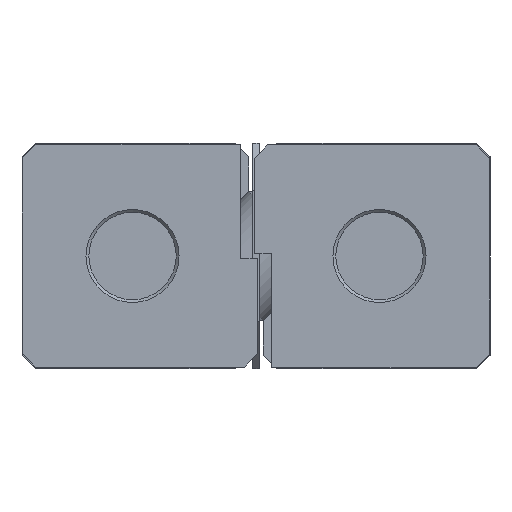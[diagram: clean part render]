
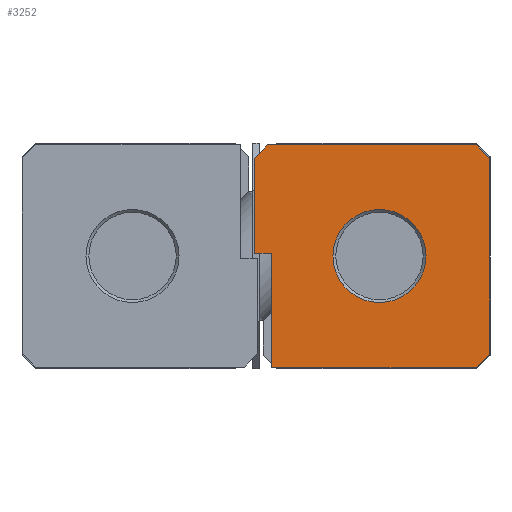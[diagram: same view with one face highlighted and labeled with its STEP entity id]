
A CAD part, left-side view. The second image highlights one B-rep face of the part: STEP entity #3252.
In plain terms, the highlighted planar face has unit normal (-1, 0, 0).
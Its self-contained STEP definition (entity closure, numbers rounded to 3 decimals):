
#112=CIRCLE('',#3488,8.25);
#316=ORIENTED_EDGE('',*,*,#1142,.T.);
#317=ORIENTED_EDGE('',*,*,#1124,.F.);
#318=ORIENTED_EDGE('',*,*,#1141,.F.);
#319=ORIENTED_EDGE('',*,*,#1139,.F.);
#320=ORIENTED_EDGE('',*,*,#1137,.F.);
#321=ORIENTED_EDGE('',*,*,#1135,.F.);
#322=ORIENTED_EDGE('',*,*,#1133,.F.);
#323=ORIENTED_EDGE('',*,*,#1131,.F.);
#324=ORIENTED_EDGE('',*,*,#1129,.F.);
#325=ORIENTED_EDGE('',*,*,#1127,.F.);
#1124=EDGE_CURVE('',#1549,#1550,#1872,.T.);
#1127=EDGE_CURVE('',#1550,#1551,#1875,.T.);
#1129=EDGE_CURVE('',#1551,#1552,#1877,.T.);
#1131=EDGE_CURVE('',#1552,#1553,#1879,.T.);
#1133=EDGE_CURVE('',#1553,#1554,#1881,.T.);
#1135=EDGE_CURVE('',#1554,#1555,#1883,.T.);
#1137=EDGE_CURVE('',#1555,#1556,#1885,.T.);
#1139=EDGE_CURVE('',#1556,#1557,#1887,.T.);
#1141=EDGE_CURVE('',#1557,#1549,#1889,.T.);
#1142=EDGE_CURVE('',#1558,#1558,#112,.T.);
#1549=VERTEX_POINT('',#4803);
#1550=VERTEX_POINT('',#4804);
#1551=VERTEX_POINT('',#4809);
#1552=VERTEX_POINT('',#4813);
#1553=VERTEX_POINT('',#4817);
#1554=VERTEX_POINT('',#4821);
#1555=VERTEX_POINT('',#4825);
#1556=VERTEX_POINT('',#4829);
#1557=VERTEX_POINT('',#4833);
#1558=VERTEX_POINT('',#4839);
#1872=LINE('',#4802,#2222);
#1875=LINE('',#4808,#2225);
#1877=LINE('',#4812,#2227);
#1879=LINE('',#4816,#2229);
#1881=LINE('',#4820,#2231);
#1883=LINE('',#4824,#2233);
#1885=LINE('',#4828,#2235);
#1887=LINE('',#4832,#2237);
#1889=LINE('',#4836,#2239);
#2222=VECTOR('',#3852,1000.);
#2225=VECTOR('',#3857,1000.);
#2227=VECTOR('',#3861,1000.);
#2229=VECTOR('',#3865,1000.);
#2231=VECTOR('',#3869,1000.);
#2233=VECTOR('',#3873,1000.);
#2235=VECTOR('',#3877,1000.);
#2237=VECTOR('',#3881,1000.);
#2239=VECTOR('',#3885,1000.);
#2544=EDGE_LOOP('',(#316));
#2545=EDGE_LOOP('',(#317,#318,#319,#320,#321,#322,#323,#324,#325));
#2828=FACE_BOUND('',#2544,.T.);
#2829=FACE_BOUND('',#2545,.T.);
#3106=PLANE('',#3487);
#3252=ADVANCED_FACE('',(#2828,#2829),#3106,.F.);
#3487=AXIS2_PLACEMENT_3D('',#4837,#3886,#3887);
#3488=AXIS2_PLACEMENT_3D('',#4838,#3888,#3889);
#3852=DIRECTION('',(0.,-1.,0.));
#3857=DIRECTION('',(0.,-0.707,-0.707));
#3861=DIRECTION('',(0.,0.,-1.));
#3865=DIRECTION('',(0.,0.707,-0.707));
#3869=DIRECTION('',(0.,1.,0.));
#3873=DIRECTION('',(0.,0.,1.));
#3877=DIRECTION('',(0.,1.,0.));
#3881=DIRECTION('',(0.,0.,1.));
#3885=DIRECTION('',(0.,-0.707,0.707));
#3886=DIRECTION('',(1.,0.,0.));
#3887=DIRECTION('',(0.,0.,-1.));
#3888=DIRECTION('',(1.,0.,0.));
#3889=DIRECTION('',(0.,0.,-1.));
#4802=CARTESIAN_POINT('',(0.,-2.12,19.7));
#4803=CARTESIAN_POINT('',(0.,-2.12,19.7));
#4804=CARTESIAN_POINT('',(0.,-39.08,19.7));
#4808=CARTESIAN_POINT('',(0.,-39.08,19.7));
#4809=CARTESIAN_POINT('',(0.,-41.45,17.33));
#4812=CARTESIAN_POINT('',(0.,-41.45,17.33));
#4813=CARTESIAN_POINT('',(0.,-41.45,-17.43));
#4816=CARTESIAN_POINT('',(0.,-41.45,-17.43));
#4817=CARTESIAN_POINT('',(0.,-39.08,-19.8));
#4820=CARTESIAN_POINT('',(0.,-39.08,-19.8));
#4821=CARTESIAN_POINT('',(0.,-2.75,-19.8));
#4824=CARTESIAN_POINT('',(0.,-2.75,-19.8));
#4825=CARTESIAN_POINT('',(0.,-2.75,0.45));
#4828=CARTESIAN_POINT('',(0.,-2.75,0.45));
#4829=CARTESIAN_POINT('',(0.,0.25,0.45));
#4832=CARTESIAN_POINT('',(0.,0.25,0.45));
#4833=CARTESIAN_POINT('',(0.,0.25,17.33));
#4836=CARTESIAN_POINT('',(0.,0.25,17.33));
#4837=CARTESIAN_POINT('',(0.,0.,0.));
#4838=CARTESIAN_POINT('',(0.,-21.9,0.));
#4839=CARTESIAN_POINT('',(0.,-21.9,-8.25));
